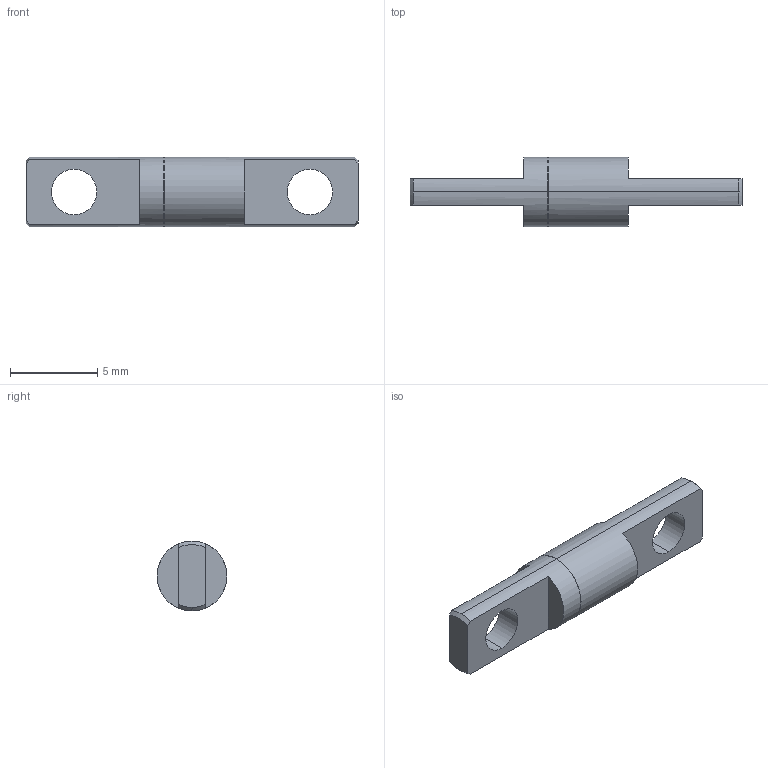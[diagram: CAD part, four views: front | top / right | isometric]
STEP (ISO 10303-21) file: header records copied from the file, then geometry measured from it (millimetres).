
FILE_DESCRIPTION (( 'STEP AP203' ), '1' );
FILE_NAME ('XG11-075-3.STEP', '2025-07-04T05:57:33', ( '微软用户' ), ( '微软中国' ), 'SwSTEP 2.0', 'SolidWorks 2024', '' );
FILE_SCHEMA (( 'CONFIG_CONTROL_DESIGN' ));
Length unit declared in the file: millimetre
Products named in the file (1): XG11-075-3
Bounding box: 19 x 4 x 4 mm (x, y, z)
Volume: 135.5 mm3; surface area: 239.4 mm2
Topology: 1 solids, 1 shells, 28 faces, 70 edges, 44 vertices
Faces by surface type: plane 10, cylinder 8, cone 6, torus 4
Entity records: 939 total; most frequent: CARTESIAN_POINT 167, DIRECTION 156, ORIENTED_EDGE 140, EDGE_CURVE 70, AXIS2_PLACEMENT_3D 65, VERTEX_POINT 44, CIRCLE 36, EDGE_LOOP 32
